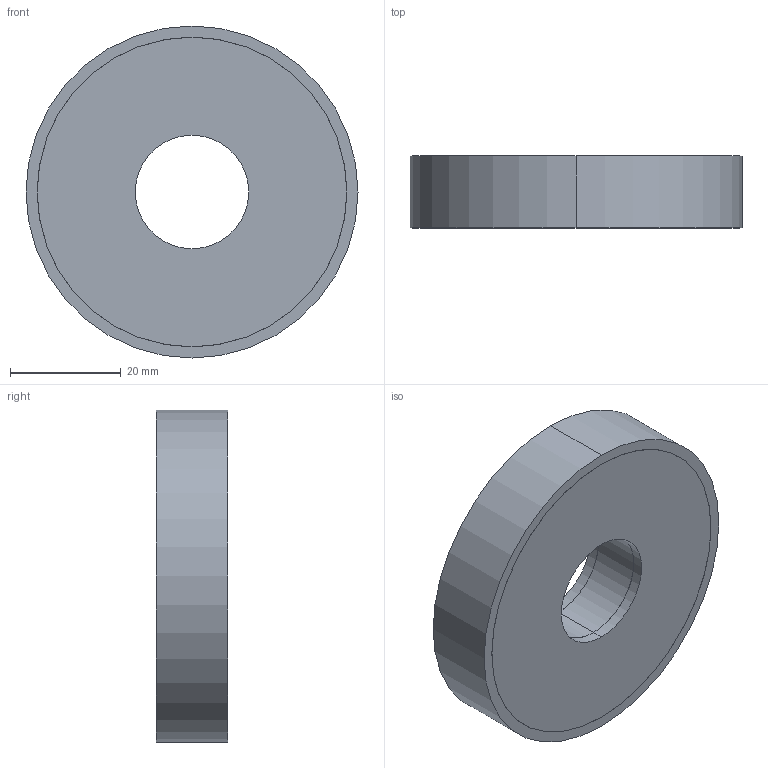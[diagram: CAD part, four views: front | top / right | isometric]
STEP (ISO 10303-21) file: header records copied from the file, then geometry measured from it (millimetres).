
FILE_DESCRIPTION (( 'STEP AP214' ), '1' );
FILE_NAME ('351-60-13-20,5-DD-40.step', '2025-07-23T10:15:15', ( '' ), ( '' ), 'SwSTEP 2.0', 'SolidWorks 2022', '' );
FILE_SCHEMA (( 'AUTOMOTIVE_DESIGN' ));
Length unit declared in the file: millimetre
Products named in the file (1): 351-60-13-20,5-DD-40
Bounding box: 60 x 13 x 60 mm (x, y, z)
Volume: 32465.8 mm3; surface area: 8292 mm2
Topology: 1 solids, 1 shells, 30 faces, 60 edges, 40 vertices
Faces by surface type: cylinder 20, plane 10
Entity records: 919 total; most frequent: DIRECTION 162, CARTESIAN_POINT 131, ORIENTED_EDGE 120, AXIS2_PLACEMENT_3D 71, EDGE_CURVE 60, CIRCLE 40, EDGE_LOOP 40, VERTEX_POINT 40
